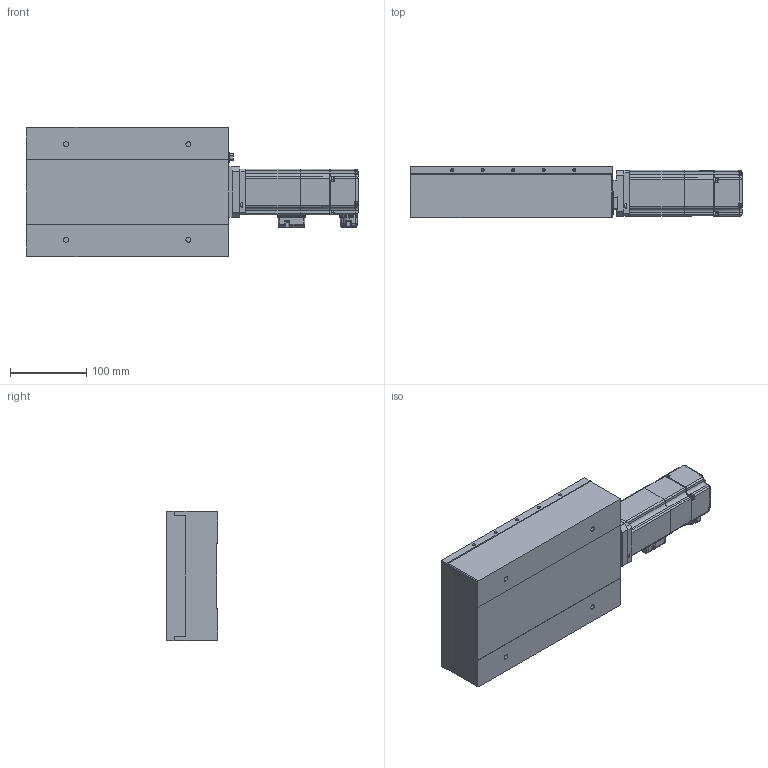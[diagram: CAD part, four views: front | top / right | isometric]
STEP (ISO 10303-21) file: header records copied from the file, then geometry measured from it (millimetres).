
FILE_DESCRIPTION (( 'STEP AP203' ), '1' );
FILE_NAME ('NPS-AC-40B-10x.STEP', '2019-09-11T06:45:42', ( '' ), ( '' ), 'SwSTEP 2.0', 'SolidWorks 2015', '' );
FILE_SCHEMA (( 'CONFIG_CONTROL_DESIGN' ));
Length unit declared in the file: millimetre
Products named in the file (3): NPS-AC-40B-10x_移動部; NPS-AC-40B-10x_固定部; NPS-AC-40B-10x
Assembly tree (2 placements, depth 2):
  NPS-AC-40B-10x
    NPS-AC-40B-10x_移動部
    NPS-AC-40B-10x_固定部
Bounding box: 434.5 x 67 x 170 mm (x, y, z)
Volume: 976992 mm3; surface area: 332724.2 mm2
Topology: 1 solids, 32 shells, 1046 faces, 2989 edges, 1975 vertices
Faces by surface type: cylinder 399, plane 386, bspline 159, cone 73, sphere 18, torus 11
Entity records: 44070 total; most frequent: CARTESIAN_POINT 18205, ORIENTED_EDGE 5170, DIRECTION 5048, EDGE_CURVE 2919, VERTEX_POINT 1957, AXIS2_PLACEMENT_3D 1802, LINE 1444, VECTOR 1444
